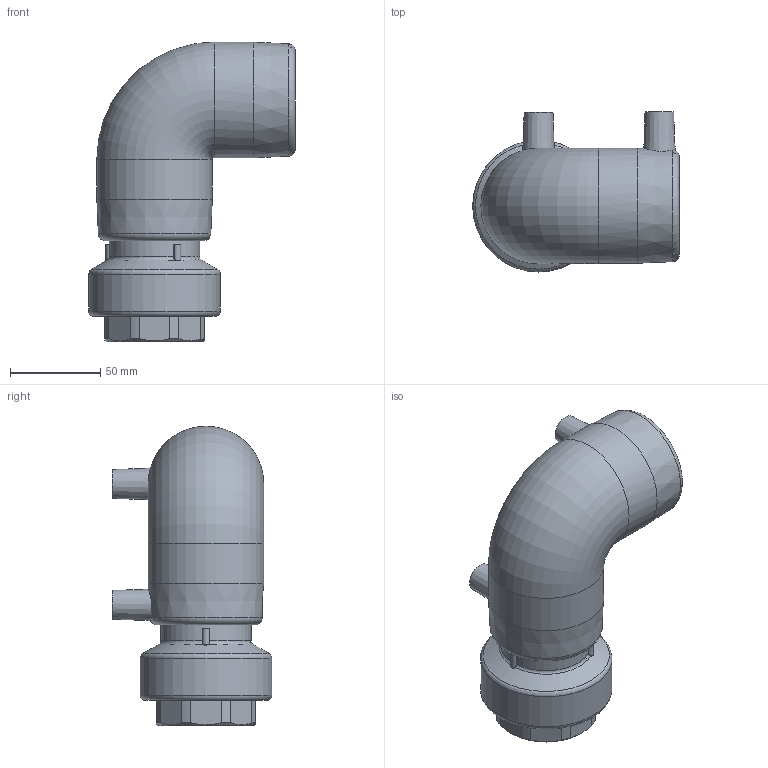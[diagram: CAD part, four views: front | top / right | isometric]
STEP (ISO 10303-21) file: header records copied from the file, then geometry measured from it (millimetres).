
FILE_DESCRIPTION(/* description */ ('Unknown'),/* implementation_level */ '2;1');
FILE_NAME(/* name */ 'GE9TFP050C',/* time_stamp */ '2021-03-02T14:54:45+01:00',/* author */ ('Unknown'),/* organization */ ('Unknown'),/* preprocessor_version */ 'ST-DEVELOPER v16.7',/* originating_system */ 'Solid Edge',/* authorisation */ 'Unknown');
FILE_SCHEMA (('AUTOMOTIVE_DESIGN {1 0 10303 214 3 1 1}'));
Length unit declared in the file: millimetre
Products named in the file (5): GE9TFP050C; GE9P050C; RTOFP050C; Parte PE 050; IOF050C
Assembly tree (4 placements, depth 3):
  GE9TFP050C
    GE9P050C
    RTOFP050C
      Parte PE 050
      IOF050C
Bounding box: 114.5 x 88.5 x 166 mm (x, y, z)
Volume: 320892.9 mm3; surface area: 113087.7 mm2
Topology: 3 solids, 3 shells, 200 faces, 473 edges, 304 vertices
Faces by surface type: plane 108, cylinder 54, torus 15, bspline 15, cone 8
Full cylindrical faces by diameter (mm): 4 x2, 12 x2, 40.8 x1, 44 x3, 44.845 x1, 48.5 x2, 50 x3, 55.5 x4, 57.3 x2, 61.5 x8, 64 x2, 73 x1
Entity records: 6381 total; most frequent: CARTESIAN_POINT 1402, DIRECTION 938, ORIENTED_EDGE 826, EDGE_CURVE 413, AXIS2_PLACEMENT_3D 387, VERTEX_POINT 288, EDGE_LOOP 275, FACE_BOUND 275
